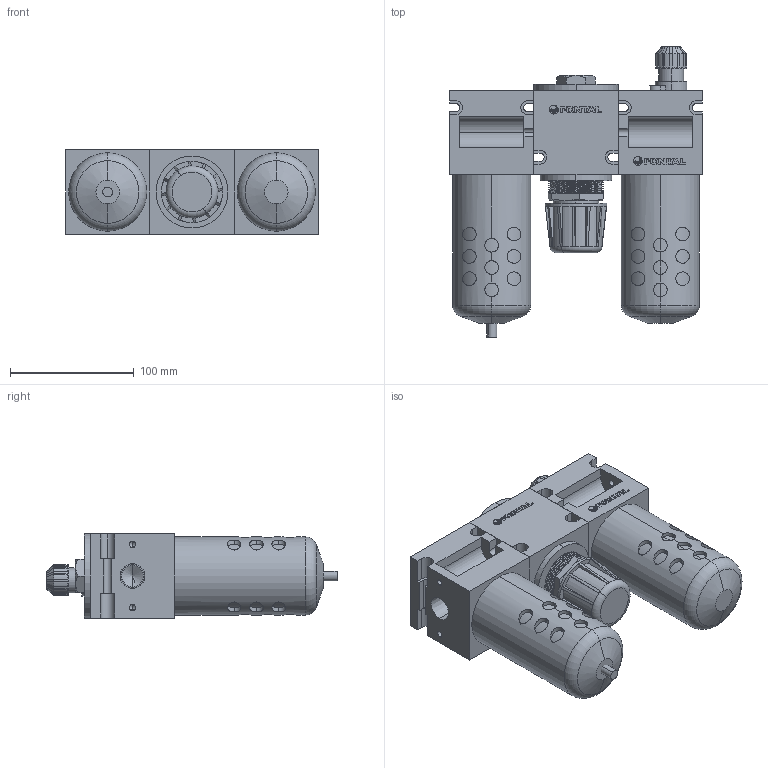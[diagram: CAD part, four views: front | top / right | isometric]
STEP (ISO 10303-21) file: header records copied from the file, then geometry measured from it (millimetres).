
FILE_DESCRIPTION (( 'STEP AP203' ), '1' );
FILE_NAME ('C105##-04#Y##.STEP', '2016-01-14T18:44:19', ( '' ), ( '' ), 'SwSTEP 2.0', 'SolidWorks 2014', '' );
FILE_SCHEMA (( 'CONFIG_CONTROL_DESIGN' ));
Length unit declared in the file: millimetre
Products named in the file (19): L508-5; L105-04#; R105-6; Y排水; R105#-04##; L45-1; F105-1; R105-2; R105-1; R010-4; R105-5; F105-MARK; R105-3; L45-2; F105; F105-04#Y#; C105##-04#Y##; R105-4; F105-2
Assembly tree (22 placements, depth 4):
  C105##-04#Y##
    F105-04#Y#
      F105-1
      F105-2
      Y排水
      F105-MARK
    R105#-04##
      R105-1
      R105-2
      R105-3
      R010-4
      R105-4
      R105-5
      R105-6
      F105-MARK
    L105-04#
      F105
        F105-1
        F105-2
        F105-MARK
      L45-2
      L508-5
      L45-1
Bounding box: 204 x 234 x 68.4 mm (x, y, z)
Volume: 1609017.2 mm3; surface area: 212561.5 mm2
Topology: 36 solids, 36 shells, 895 faces, 2296 edges, 1497 vertices
Faces by surface type: plane 491, cylinder 314, cone 58, bspline 26, torus 6
Entity records: 23177 total; most frequent: CARTESIAN_POINT 7408, ORIENTED_EDGE 2896, DIRECTION 2746, EDGE_CURVE 1448, VERTEX_POINT 947, AXIS2_PLACEMENT_3D 920, LINE 906, VECTOR 906
